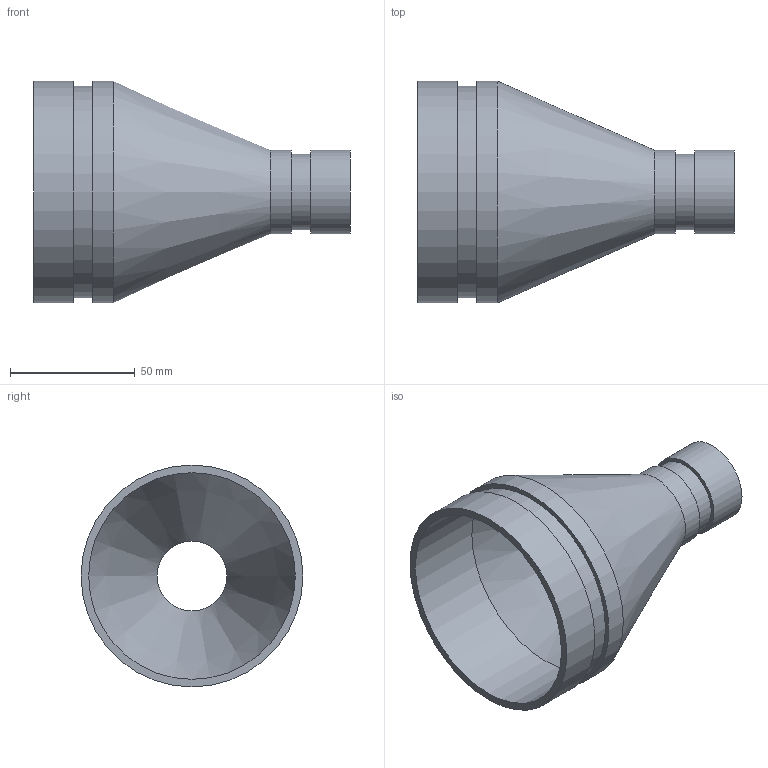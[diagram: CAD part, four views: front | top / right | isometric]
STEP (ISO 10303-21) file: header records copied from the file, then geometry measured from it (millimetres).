
FILE_DESCRIPTION(/* description */ ('VIC REDUCER CONCENTRIC No 450-SS','CAx-IF Rec.Pracs.---Representation and Presentation of Product Manufacturing Information (PMI)---4.0---2014-10-13'),/* implementation_level */ '2;1');
FILE_NAME(/* name */ 'C:\Users\kkamble\AppData\Roaming\Autodesk\ApplicationPlugins\Back Up\Victaulic_SS-OGS_Reducer Concentric_Sched 10S_No 450 SS (OGS)\Victaulic_SS-OGS_Reducer Concentric_Sched 10S_No 450 SS (OGS)_03.0x01.0 (80x25).stp',/* time_stamp */ '2020-09-08T12:32:32+05:00',/* author */ ('CORINNE GRAY'),/* organization */ ('Victaulic'),/* preprocessor_version */ 'ST-DEVELOPER v17.2',/* originating_system */ 'Autodesk Inventor 2019',/* authorisation */ '');
FILE_SCHEMA (('AP242_MANAGED_MODEL_BASED_3D_ENGINEERING_MIM_LF { 1 0 10303 442 1 1 4 }'));
Length unit declared in the file: inch
Products named in the file (1): 450 SS-03.0x01.0
Bounding box: 127 x 88.9 x 88.9 mm (x, y, z)
Volume: 62768.5 mm3; surface area: 50912.8 mm2
Topology: 1 solids, 1 shells, 16 faces, 42 edges, 32 vertices
Faces by surface type: cylinder 8, plane 6, cone 2
Full cylindrical faces by diameter (mm): 27.94 x1, 30.226 x1, 33.401 x2, 82.804 x1, 84.938 x1, 88.9 x2
Entity records: 686 total; most frequent: DIRECTION 134, CARTESIAN_POINT 108, ORIENTED_EDGE 84, AXIS2_PLACEMENT_3D 62, EDGE_CURVE 42, CIRCLE 32, VERTEX_POINT 32, EDGE_LOOP 22
